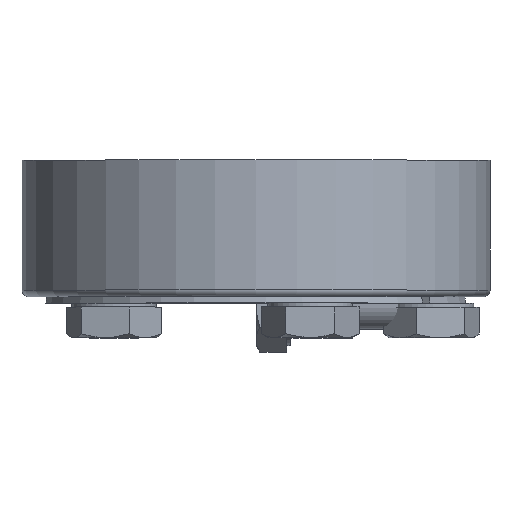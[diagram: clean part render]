
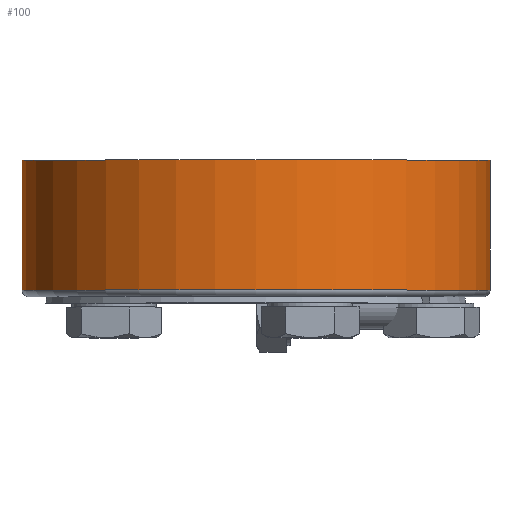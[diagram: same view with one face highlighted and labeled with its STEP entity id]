
A CAD part, top view. The second image highlights one B-rep face of the part: STEP entity #100.
In plain terms, the highlighted cylindrical face has radius 36 mm (diameter 72 mm), a full revolution.
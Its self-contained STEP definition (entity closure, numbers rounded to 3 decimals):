
#100 = ADVANCED_FACE( '', ( #205, #206 ), #207, .T. );
#205 = FACE_OUTER_BOUND( '', #308, .T. );
#206 = FACE_OUTER_BOUND( '', #309, .T. );
#207 = CYLINDRICAL_SURFACE( '', #310, 36. );
#308 = EDGE_LOOP( '', ( #522 ) );
#309 = EDGE_LOOP( '', ( #523 ) );
#310 = AXIS2_PLACEMENT_3D( '', #524, #525, #526 );
#522 = ORIENTED_EDGE( '', *, *, #611, .T. );
#523 = ORIENTED_EDGE( '', *, *, #637, .T. );
#524 = CARTESIAN_POINT( '', ( 0., -60., 0. ) );
#525 = DIRECTION( '', ( 0., 1., 0. ) );
#526 = DIRECTION( '', ( 0., 0., -1. ) );
#611 = EDGE_CURVE( '', #753, #753, #754, .F. );
#637 = EDGE_CURVE( '', #791, #791, #792, .T. );
#753 = VERTEX_POINT( '', #1041 );
#754 = CIRCLE( '', #1042, 36. );
#791 = VERTEX_POINT( '', #1094 );
#792 = CIRCLE( '', #1095, 36. );
#1041 = CARTESIAN_POINT( '', ( 0., 2., -36. ) );
#1042 = AXIS2_PLACEMENT_3D( '', #1201, #1202, #1203 );
#1094 = CARTESIAN_POINT( '', ( 0., 22., -36. ) );
#1095 = AXIS2_PLACEMENT_3D( '', #1231, #1232, #1233 );
#1201 = CARTESIAN_POINT( '', ( 0., 2., 0. ) );
#1202 = DIRECTION( '', ( 0., -1., 0. ) );
#1203 = DIRECTION( '', ( 0., 0., -1. ) );
#1231 = CARTESIAN_POINT( '', ( 0., 22., 0. ) );
#1232 = DIRECTION( '', ( 0., -1., 0. ) );
#1233 = DIRECTION( '', ( 0., 0., -1. ) );
